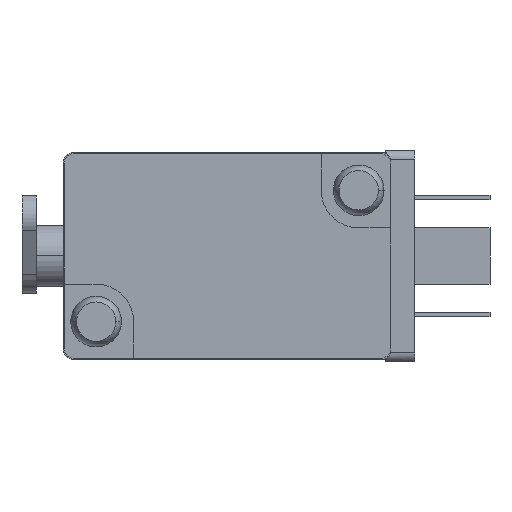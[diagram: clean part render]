
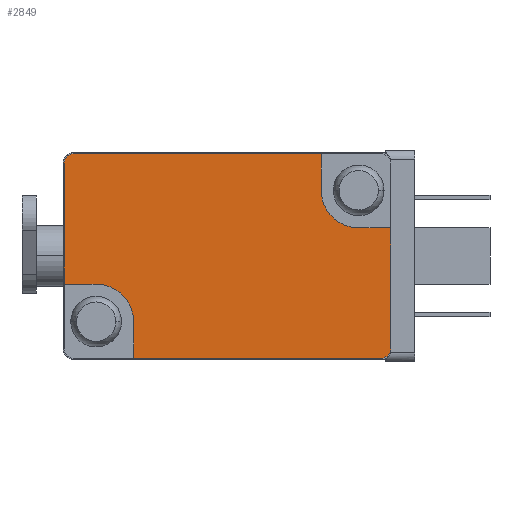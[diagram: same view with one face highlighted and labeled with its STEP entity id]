
A CAD part, left-side view. The second image highlights one B-rep face of the part: STEP entity #2849.
In plain terms, the highlighted planar face has unit normal (-1, 0, 0).
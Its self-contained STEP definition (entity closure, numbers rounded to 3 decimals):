
#77 = CARTESIAN_POINT ( 'NONE',  ( -56.25, 14.6, -78.9 ) ) ;
#182 = DIRECTION ( 'NONE',  ( 0., 0., -1. ) ) ;
#281 = EDGE_CURVE ( 'NONE', #2756, #2168, #459, .T. ) ;
#401 = DIRECTION ( 'NONE',  ( 0., -1., 0. ) ) ;
#436 = ORIENTED_EDGE ( 'NONE', *, *, #5571, .T. ) ;
#459 = LINE ( 'NONE', #2269, #2245 ) ;
#538 = VERTEX_POINT ( 'NONE', #2934 ) ;
#666 = CARTESIAN_POINT ( 'NONE',  ( -56.25, 48.4, -59.1 ) ) ;
#682 = ORIENTED_EDGE ( 'NONE', *, *, #714, .T. ) ;
#707 = ORIENTED_EDGE ( 'NONE', *, *, #4255, .F. ) ;
#714 = EDGE_CURVE ( 'NONE', #1608, #3538, #3857, .T. ) ;
#786 = CARTESIAN_POINT ( 'NONE',  ( -56.25, 15.6, -78.9 ) ) ;
#823 = CARTESIAN_POINT ( 'NONE',  ( -56.25, 18., -66. ) ) ;
#877 = ORIENTED_EDGE ( 'NONE', *, *, #281, .T. ) ;
#901 = DIRECTION ( 'NONE',  ( -1., 0., 0. ) ) ;
#964 = CIRCLE ( 'NONE', #1170, 4. ) ;
#987 = CARTESIAN_POINT ( 'NONE',  ( -56.25, 15.6, -79.9 ) ) ;
#991 = DIRECTION ( 'NONE',  ( -1., 0., 0. ) ) ;
#1142 = AXIS2_PLACEMENT_3D ( 'NONE', #4626, #991, #1885 ) ;
#1170 = AXIS2_PLACEMENT_3D ( 'NONE', #2315, #901, #4926 ) ;
#1217 = EDGE_LOOP ( 'NONE', ( #2450, #5434, #682, #1484, #2564, #3439, #4763, #877, #436, #4353, #707, #3996 ) ) ;
#1404 = CARTESIAN_POINT ( 'NONE',  ( -56.25, 22., -62. ) ) ;
#1470 = FACE_OUTER_BOUND ( 'NONE', #1217, .T. ) ;
#1484 = ORIENTED_EDGE ( 'NONE', *, *, #4384, .T. ) ;
#1518 = EDGE_CURVE ( 'NONE', #4168, #1919, #4593, .T. ) ;
#1550 = VECTOR ( 'NONE', #4090, 1000. ) ;
#1593 = LINE ( 'NONE', #4276, #1908 ) ;
#1608 = VERTEX_POINT ( 'NONE', #987 ) ;
#1665 = CARTESIAN_POINT ( 'NONE',  ( -56.25, 42., -76. ) ) ;
#1746 = EDGE_CURVE ( 'NONE', #538, #4502, #1593, .T. ) ;
#1799 = LINE ( 'NONE', #4456, #3409 ) ;
#1803 = CARTESIAN_POINT ( 'NONE',  ( -56.25, 22., -58.1 ) ) ;
#1885 = DIRECTION ( 'NONE',  ( 0., 0., 1. ) ) ;
#1908 = VECTOR ( 'NONE', #182, 1000. ) ;
#1919 = VERTEX_POINT ( 'NONE', #5033 ) ;
#2066 = DIRECTION ( 'NONE',  ( -1., 0., 0. ) ) ;
#2168 = VERTEX_POINT ( 'NONE', #3346 ) ;
#2245 = VECTOR ( 'NONE', #4545, 1000. ) ;
#2269 = CARTESIAN_POINT ( 'NONE',  ( -56.25, 15.6, -58.1 ) ) ;
#2294 = DIRECTION ( 'NONE',  ( 0., -1., 0. ) ) ;
#2309 = VERTEX_POINT ( 'NONE', #2332 ) ;
#2313 = VECTOR ( 'NONE', #3155, 1000. ) ;
#2315 = CARTESIAN_POINT ( 'NONE',  ( -56.25, 46., -76. ) ) ;
#2332 = CARTESIAN_POINT ( 'NONE',  ( -56.25, 42., -79.9 ) ) ;
#2450 = ORIENTED_EDGE ( 'NONE', *, *, #4671, .F. ) ;
#2559 = CIRCLE ( 'NONE', #4357, 4. ) ;
#2564 = ORIENTED_EDGE ( 'NONE', *, *, #1518, .F. ) ;
#2588 = DIRECTION ( 'NONE',  ( -1., 0., 0. ) ) ;
#2605 = VERTEX_POINT ( 'NONE', #1665 ) ;
#2616 = DIRECTION ( 'NONE',  ( 0., 0., 1. ) ) ;
#2726 = CARTESIAN_POINT ( 'NONE',  ( -56.25, 42., -78.9 ) ) ;
#2729 = DIRECTION ( 'NONE',  ( 0., 0., 1. ) ) ;
#2742 = VECTOR ( 'NONE', #2294, 1000. ) ;
#2756 = VERTEX_POINT ( 'NONE', #1803 ) ;
#2849 = ADVANCED_FACE ( 'NONE', ( #1470 ), #4665, .T. ) ;
#2934 = CARTESIAN_POINT ( 'NONE',  ( -56.25, 49.4, -59.1 ) ) ;
#3078 = EDGE_CURVE ( 'NONE', #2309, #1608, #1799, .T. ) ;
#3103 = AXIS2_PLACEMENT_3D ( 'NONE', #786, #2588, #2616 ) ;
#3146 = EDGE_CURVE ( 'NONE', #4687, #4168, #2559, .T. ) ;
#3155 = DIRECTION ( 'NONE',  ( 0., 0., -1. ) ) ;
#3346 = CARTESIAN_POINT ( 'NONE',  ( -56.25, 48.4, -58.1 ) ) ;
#3409 = VECTOR ( 'NONE', #401, 1000. ) ;
#3439 = ORIENTED_EDGE ( 'NONE', *, *, #3146, .F. ) ;
#3538 = VERTEX_POINT ( 'NONE', #77 ) ;
#3766 = LINE ( 'NONE', #5640, #5324 ) ;
#3857 = CIRCLE ( 'NONE', #3103, 1. ) ;
#3925 = CARTESIAN_POINT ( 'NONE',  ( -56.25, 46., -72. ) ) ;
#3996 = ORIENTED_EDGE ( 'NONE', *, *, #4576, .F. ) ;
#4015 = LINE ( 'NONE', #5355, #2313 ) ;
#4090 = DIRECTION ( 'NONE',  ( 0., 0., 1. ) ) ;
#4168 = VERTEX_POINT ( 'NONE', #823 ) ;
#4214 = CARTESIAN_POINT ( 'NONE',  ( -56.25, 18., -66. ) ) ;
#4255 = EDGE_CURVE ( 'NONE', #4623, #4502, #4815, .T. ) ;
#4276 = CARTESIAN_POINT ( 'NONE',  ( -56.25, 49.4, -59.1 ) ) ;
#4353 = ORIENTED_EDGE ( 'NONE', *, *, #1746, .T. ) ;
#4357 = AXIS2_PLACEMENT_3D ( 'NONE', #4984, #5455, #2729 ) ;
#4384 = EDGE_CURVE ( 'NONE', #3538, #1919, #3766, .T. ) ;
#4395 = CARTESIAN_POINT ( 'NONE',  ( -56.25, 49.4, -72. ) ) ;
#4456 = CARTESIAN_POINT ( 'NONE',  ( -56.25, 48.4, -79.9 ) ) ;
#4482 = LINE ( 'NONE', #2726, #1550 ) ;
#4493 = CIRCLE ( 'NONE', #5439, 1. ) ;
#4502 = VERTEX_POINT ( 'NONE', #4395 ) ;
#4545 = DIRECTION ( 'NONE',  ( 0., 1., 0. ) ) ;
#4576 = EDGE_CURVE ( 'NONE', #2605, #4623, #964, .T. ) ;
#4593 = LINE ( 'NONE', #4214, #2742 ) ;
#4623 = VERTEX_POINT ( 'NONE', #4979 ) ;
#4626 = CARTESIAN_POINT ( 'NONE',  ( -56.25, 15.6, -78.9 ) ) ;
#4656 = VECTOR ( 'NONE', #5734, 1000. ) ;
#4665 = PLANE ( 'NONE',  #1142 ) ;
#4671 = EDGE_CURVE ( 'NONE', #2309, #2605, #4482, .T. ) ;
#4687 = VERTEX_POINT ( 'NONE', #1404 ) ;
#4723 = DIRECTION ( 'NONE',  ( 0., 0., 1. ) ) ;
#4763 = ORIENTED_EDGE ( 'NONE', *, *, #5308, .F. ) ;
#4815 = LINE ( 'NONE', #3925, #4656 ) ;
#4926 = DIRECTION ( 'NONE',  ( 0., 0., 1. ) ) ;
#4979 = CARTESIAN_POINT ( 'NONE',  ( -56.25, 46., -72. ) ) ;
#4984 = CARTESIAN_POINT ( 'NONE',  ( -56.25, 18., -62. ) ) ;
#5033 = CARTESIAN_POINT ( 'NONE',  ( -56.25, 14.6, -66. ) ) ;
#5226 = DIRECTION ( 'NONE',  ( 0., 0., 1. ) ) ;
#5308 = EDGE_CURVE ( 'NONE', #2756, #4687, #4015, .T. ) ;
#5324 = VECTOR ( 'NONE', #4723, 1000. ) ;
#5355 = CARTESIAN_POINT ( 'NONE',  ( -56.25, 22., -78.9 ) ) ;
#5434 = ORIENTED_EDGE ( 'NONE', *, *, #3078, .T. ) ;
#5439 = AXIS2_PLACEMENT_3D ( 'NONE', #666, #2066, #5226 ) ;
#5455 = DIRECTION ( 'NONE',  ( -1., 0., 0. ) ) ;
#5571 = EDGE_CURVE ( 'NONE', #2168, #538, #4493, .T. ) ;
#5640 = CARTESIAN_POINT ( 'NONE',  ( -56.25, 14.6, -78.9 ) ) ;
#5734 = DIRECTION ( 'NONE',  ( 0., 1., 0. ) ) ;
